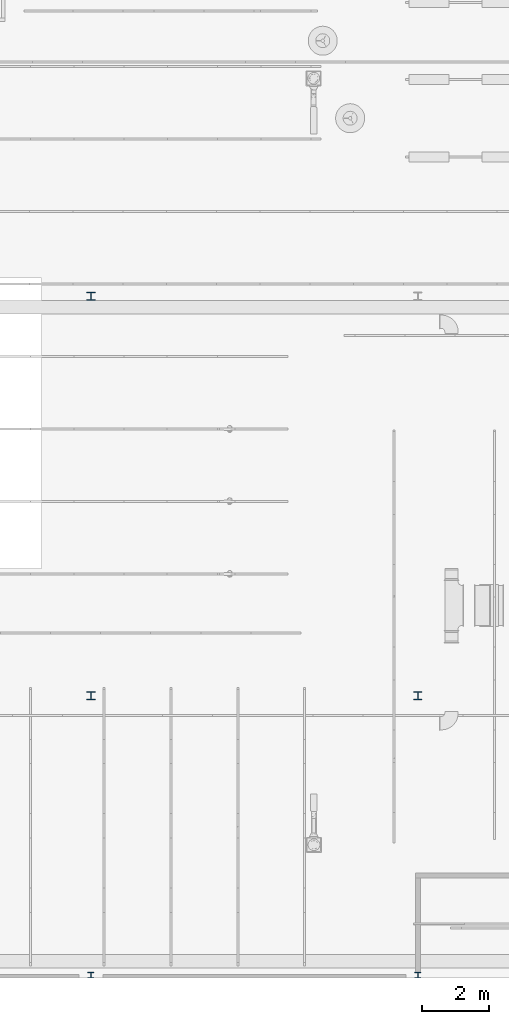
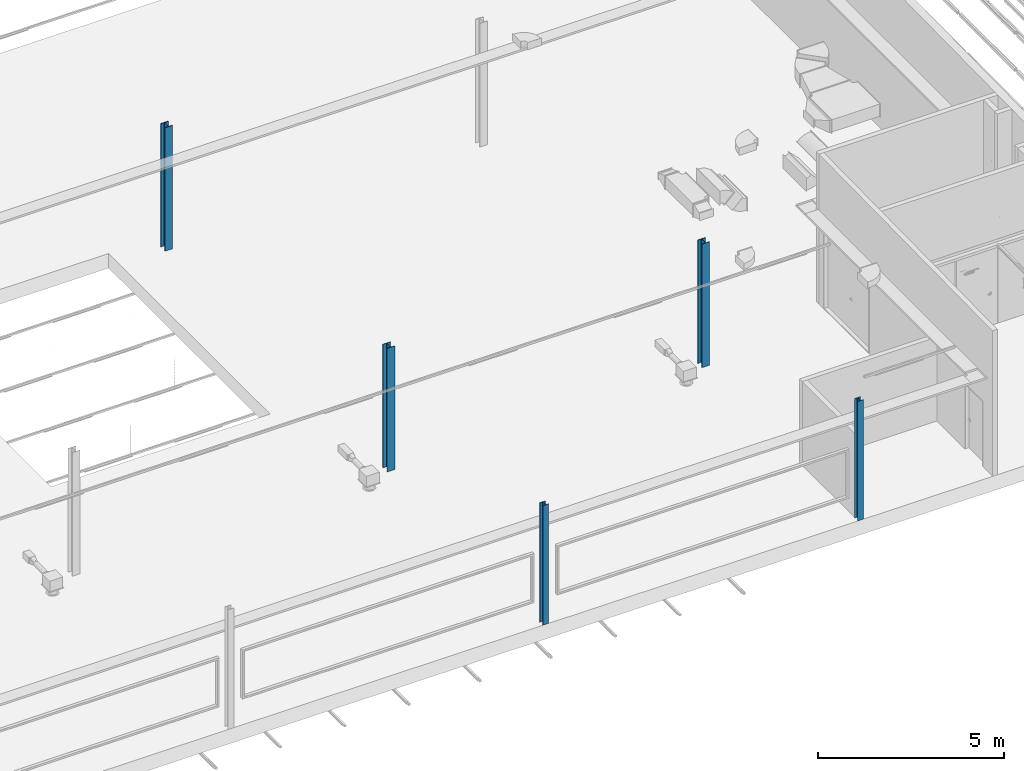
# One storey, part 4 of 290: 5 columns.
"""IFC2X3 building model written with IfcOpenShell, lengths in metres."""

import ifcopenshell
import ifcopenshell.guid

model = None  # the IFC model being written
_history = None  # IfcOwnerHistory: only IFC2X3 demands one
_inside = {}  # id of a spatial element -> (the spatial element, [elements in it])
_under = {}  # id of a project, library or spatial element -> (it, [spatial elements below it])
_declared = {}  # id of a project -> (the project, [libraries it declares])
_typed = {}  # id of a type object -> (the type object, [elements of that type])
_made_of = {}  # id of a material, layer set ... -> (it, [elements and type objects made of it])


def new_model(schema):
    """Start an empty IFC model of exactly this schema.

    Asked for "IFC4X3", IfcOpenShell would pick the latest addendum, in which some entities
    have other attributes; the version numbers below select the first issue.
    IFC2X3 requires an IfcOwnerHistory on every rooted entity: one is made here for all.
    """
    global model, _history
    if schema == "IFC4X3":
        model = ifcopenshell.file(schema_version=(4, 3, 0, 0))
    else:
        model = ifcopenshell.file(schema=schema)
    _inside.clear()
    _under.clear()
    _declared.clear()
    _typed.clear()
    _made_of.clear()
    _history = None
    if model.schema == "IFC2X3":
        org = make("IfcOrganization", Name="unknown")
        user = make(
            "IfcPersonAndOrganization",
            ThePerson=make("IfcPerson", FamilyName="unknown"),
            TheOrganization=org,
        )
        app = make(
            "IfcApplication",
            ApplicationDeveloper=org,
            Version="unknown",
            ApplicationFullName="unknown",
            ApplicationIdentifier="unknown",
        )
        _history = make(
            "IfcOwnerHistory",
            OwningUser=user,
            OwningApplication=app,
            ChangeAction="ADDED",
            CreationDate=0,
        )
    return model


def make(cls, **values):
    """One entity of the class cls with the attributes given. An attribute that is None is left unset."""
    return model.create_entity(
        cls, **{name: value for name, value in values.items() if value is not None}
    )


def entity(cls, *values):
    """Any entity or typed value of the class cls, its attributes in the order of the schema. None: left unset."""
    e = model.create_entity(cls)
    for i, value in enumerate(values):
        if value is not None:
            e[i] = value
    return e


def rooted(cls, **values):
    """An entity with a GlobalId (a new one), such as an element, a storey or a relation."""
    return make(cls, GlobalId=ifcopenshell.guid.new(), OwnerHistory=_history, **values)


def si_unit(unit_type, name, prefix=None):
    """IfcSIUnit, for example si_unit("LENGTHUNIT", "METRE", prefix="MILLI")."""
    return make("IfcSIUnit", UnitType=unit_type, Prefix=prefix, Name=name)


def converted_unit(unit_type, name, factor, base, dimensions=None, offset=None):
    """IfcConversionBasedUnit, such as the inch: factor (a typed value) times the base unit."""
    return make(
        "IfcConversionBasedUnit"
        if offset is None
        else "IfcConversionBasedUnitWithOffset",
        ConversionOffset=offset,
        Dimensions=None
        if dimensions is None
        else entity("IfcDimensionalExponents", *dimensions),
        UnitType=unit_type,
        Name=name,
        ConversionFactor=make(
            "IfcMeasureWithUnit", ValueComponent=factor, UnitComponent=base
        ),
    )


def derived_unit(unit_type, elements):
    """IfcDerivedUnit: a product of units, each with its exponent."""
    return make(
        "IfcDerivedUnit",
        Elements=[
            make("IfcDerivedUnitElement", Unit=unit, Exponent=power)
            for unit, power in elements
        ],
        UnitType=unit_type,
    )


def assignment(units):
    """IfcUnitAssignment: the units of a project."""
    return None if units is None else make("IfcUnitAssignment", Units=units)


def point(xyz):
    """IfcCartesianPoint."""
    return None if xyz is None else make("IfcCartesianPoint", Coordinates=xyz)


def direction(xyz):
    """IfcDirection."""
    return None if xyz is None else make("IfcDirection", DirectionRatios=xyz)


def frame(location, z_axis=None, x_axis=None):
    """IfcAxis2Placement3D, a coordinate frame: its origin and axes. An axis left out is left unset."""
    return make(
        "IfcAxis2Placement3D",
        Location=point(location),
        Axis=direction(z_axis),
        RefDirection=direction(x_axis),
    )


def frame_2d(location, x_axis=None):
    """IfcAxis2Placement2D, a coordinate frame in the plane: its origin and x axis."""
    return make(
        "IfcAxis2Placement2D", Location=point(location), RefDirection=direction(x_axis)
    )


def origin():
    """The frame at (0, 0, 0) with its axes left unset."""
    return frame((0.0, 0.0, 0.0))


def place(relative_to, where):
    """IfcLocalPlacement: puts the frame where relative to a parent placement (None: the world)."""
    return make(
        "IfcLocalPlacement", PlacementRelTo=relative_to, RelativePlacement=where
    )


def context(
    kind, dimensions, precision=None, world=None, true_north=None, identifier=None
):
    """IfcGeometricRepresentationContext, for example the 3D "Model" context."""
    return make(
        "IfcGeometricRepresentationContext",
        ContextIdentifier=identifier,
        ContextType=kind,
        CoordinateSpaceDimension=dimensions,
        Precision=precision,
        WorldCoordinateSystem=world,
        TrueNorth=true_north,
    )


def subcontext(parent, identifier, kind, view, scale=None):
    """IfcGeometricRepresentationSubContext, for example "Body" below "Model"."""
    return make(
        "IfcGeometricRepresentationSubContext",
        ContextIdentifier=identifier,
        ContextType=kind,
        ParentContext=parent,
        TargetScale=scale,
        TargetView=view,
    )


def project(units=None, contexts=None):
    """IfcProject with its units and contexts."""
    return rooted(
        "IfcProject",
        Name="project",
        RepresentationContexts=contexts,
        UnitsInContext=assignment(units),
    )


def spatial(cls, under=None, at=None, **own):
    """A site, building, storey or space (cls), placed at a placement, below another one or the project."""
    s = rooted(cls, ObjectPlacement=at, **own)
    if under is not None:
        _under.setdefault(under.id(), (under, []))[1].append(s)
    return s


def polyline(points):
    """IfcPolyline through the points."""
    return make("IfcPolyline", Points=[point(p) for p in points])


def circle_curve(where, radius):
    """IfcCircle in the frame where."""
    return make("IfcCircle", Position=where, Radius=radius)


def parameter(value):
    """IfcParameterValue: where a trimmed curve begins or ends, as a parameter of its basis curve."""
    return model.create_entity("IfcParameterValue", value)


def trimmed(basis, trim1, trim2, sense, master):
    """IfcTrimmedCurve: the piece of a basis curve between two trims."""
    return make(
        "IfcTrimmedCurve",
        BasisCurve=basis,
        Trim1=trim1,
        Trim2=trim2,
        SenseAgreement=sense,
        MasterRepresentation=master,
    )


def segment(curve, same_sense, transition):
    """IfcCompositeCurveSegment."""
    return make(
        "IfcCompositeCurveSegment",
        Transition=transition,
        SameSense=same_sense,
        ParentCurve=curve,
    )


def composite_curve(segments, self_intersect=None):
    """IfcCompositeCurve: segments joined end to end."""
    return make("IfcCompositeCurve", Segments=segments, SelfIntersect=self_intersect)


def profile(cls, at=None, kind="AREA", **sizes):
    """A parametric profile (cls). Its sizes go by their IFC names, for example OverallWidth=200.0."""
    return make(cls, ProfileType=kind, Position=at, **sizes)


def i_section(**sizes):
    """IfcIShapeProfileDef."""
    return profile("IfcIShapeProfileDef", **sizes)


def outline(outer, holes=None, kind="AREA"):
    """IfcArbitraryClosedProfileDef: a profile drawn as a closed curve; with holes, ...WithVoids."""
    if holes is None:
        return make("IfcArbitraryClosedProfileDef", ProfileType=kind, OuterCurve=outer)
    return make(
        "IfcArbitraryProfileDefWithVoids",
        ProfileType=kind,
        OuterCurve=outer,
        InnerCurves=holes,
    )


def extrude(swept, where, along, depth):
    """IfcExtrudedAreaSolid: the profile swept, set in the frame where, extruded along a direction by depth."""
    return make(
        "IfcExtrudedAreaSolid",
        SweptArea=swept,
        Position=where,
        ExtrudedDirection=direction(along),
        Depth=depth,
    )


def shape(context_of_items, identifier, shape_type, items):
    """IfcShapeRepresentation: the items that make up one representation, for example the "Body"."""
    return make(
        "IfcShapeRepresentation",
        ContextOfItems=context_of_items,
        RepresentationIdentifier=identifier,
        RepresentationType=shape_type,
        Items=items,
    )


def source(mapping_origin, context_of_items, identifier, shape_type, items):
    """IfcRepresentationMap: a shape defined once, which mapped items show again and again."""
    return make(
        "IfcRepresentationMap",
        MappingOrigin=mapping_origin,
        MappedRepresentation=shape(context_of_items, identifier, shape_type, items),
    )


def transform(
    local_origin,
    x_axis=None,
    y_axis=None,
    z_axis=None,
    scale=None,
    scale2=None,
    scale3=None,
    uniform=True,
):
    """IfcCartesianTransformationOperator3D, or its non-uniform kind. x_axis, y_axis, z_axis: its Axis1, 2, 3."""
    if uniform:
        return make(
            "IfcCartesianTransformationOperator3D",
            Axis1=direction(x_axis),
            Axis2=direction(y_axis),
            LocalOrigin=point(local_origin),
            Scale=scale,
            Axis3=direction(z_axis),
        )
    return make(
        "IfcCartesianTransformationOperator3DnonUniform",
        Axis1=direction(x_axis),
        Axis2=direction(y_axis),
        LocalOrigin=point(local_origin),
        Scale=scale,
        Axis3=direction(z_axis),
        Scale2=scale2,
        Scale3=scale3,
    )


def mapped(mapping_source, mapping_target):
    """IfcMappedItem: shows the shape of a source again, moved by a transform."""
    return make(
        "IfcMappedItem", MappingSource=mapping_source, MappingTarget=mapping_target
    )


def material(Name=None, Category=None):
    """IfcMaterial."""
    return make("IfcMaterial", Name=Name, Category=Category)


def made_of(thing, what):
    """Note that an element or type object is made of a material, layer set ...; save() writes the relation."""
    if what is not None:
        _made_of.setdefault(what.id(), (what, []))[1].append(thing)
    return thing


def type_object(cls, material=None, **own):
    """A type object (cls), such as IfcWallType, which elements share."""
    return made_of(rooted(cls, **own), material)


def type_shapes(of_type, sources):
    """Give a type object the sources (RepresentationMaps) that its elements show as mapped items."""
    of_type.RepresentationMaps = sources


def element(
    cls,
    number,
    at=None,
    inside=None,
    cuts=None,
    type_object=None,
    material=None,
    context=None,
    identifier="Body",
    shape_type=None,
    held_by="IfcProductDefinitionShape",
    body=None,
    shapes=None,
    **own,
):
    """One element of the class cls, such as IfcWall. Its Tag is "e" and its number.

    at: its placement. inside: the storey or other place that contains it. cuts: it is an
    opening in that element (IfcRelVoidsElement). A single representation is given by context,
    identifier, shape_type and body (its items); several are given by shapes. held_by: the class
    of the entity that holds the representations. save() writes the other relations.
    """
    e = rooted(cls, Tag="e%d" % number, ObjectPlacement=at, **own)
    if body is not None:
        shapes = [shape(context, identifier, shape_type, body)]
    if shapes is not None:
        e.Representation = make(held_by, Representations=shapes)
    if inside is not None:
        _inside.setdefault(inside.id(), (inside, []))[1].append(e)
    if cuts is not None:
        rooted(
            "IfcRelVoidsElement", RelatingBuildingElement=cuts, RelatedOpeningElement=e
        )
    if type_object is not None:
        _typed.setdefault(type_object.id(), (type_object, []))[1].append(e)
    return made_of(e, material)


def aggregate(whole, parts):
    """IfcRelAggregates: a whole, such as a stair, and the parts it consists of."""
    return rooted("IfcRelAggregates", RelatingObject=whole, RelatedObjects=parts)


def save(model, path):
    """Write the relations noted so far, then the file.

    IfcRelAggregates (storeys below a building ...), IfcRelContainedInSpatialStructure (elements
    in a storey), IfcRelDefinesByType, IfcRelAssociatesMaterial and IfcRelDeclares: one each for
    every whole, place, type object, material and project.
    """
    for whole, parts in _under.values():
        aggregate(whole, parts)
    for where, things in _inside.values():
        rooted(
            "IfcRelContainedInSpatialStructure",
            RelatedElements=things,
            RelatingStructure=where,
        )
    for kind, things in _typed.values():
        rooted("IfcRelDefinesByType", RelatedObjects=things, RelatingType=kind)
    for what, things in _made_of.values():
        rooted("IfcRelAssociatesMaterial", RelatedObjects=things, RelatingMaterial=what)
    for by, libraries in _declared.values():
        rooted("IfcRelDeclares", RelatingContext=by, RelatedDefinitions=libraries)
    model.write(path)


model = new_model("IFC2X3")

# Units and contexts
model_context = context("Model", 3, precision=1e-05, world=origin(), true_north=direction((6.12303176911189e-17, 1.0)))
body_context = subcontext(model_context, "Body", "Model", "MODEL_VIEW")
ifc_project = project(units=[si_unit("LENGTHUNIT", "METRE"), si_unit("AREAUNIT", "SQUARE_METRE"), si_unit("VOLUMEUNIT", "CUBIC_METRE"), converted_unit("PLANEANGLEUNIT", "DEGREE", entity("IfcRatioMeasure", 0.0174532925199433), si_unit("PLANEANGLEUNIT", "RADIAN"), dimensions=[0, 0, 0, 0, 0, 0, 0]), si_unit("MASSUNIT", "GRAM", prefix="KILO"), derived_unit("MASSDENSITYUNIT", [(si_unit("MASSUNIT", "GRAM", prefix="KILO"), 1), (si_unit("LENGTHUNIT", "METRE"), -3)]), derived_unit("MOMENTOFINERTIAUNIT", [(si_unit("LENGTHUNIT", "METRE"), 4)]), si_unit("TIMEUNIT", "SECOND"), si_unit("FREQUENCYUNIT", "HERTZ"), si_unit("THERMODYNAMICTEMPERATUREUNIT", "DEGREE_CELSIUS"), derived_unit("THERMALTRANSMITTANCEUNIT", [(si_unit("MASSUNIT", "GRAM", prefix="KILO"), 1), (si_unit("THERMODYNAMICTEMPERATUREUNIT", "KELVIN"), -1), (si_unit("TIMEUNIT", "SECOND"), -3)]), derived_unit("VOLUMETRICFLOWRATEUNIT", [(si_unit("LENGTHUNIT", "METRE"), 3), (si_unit("TIMEUNIT", "SECOND"), -1)]), si_unit("ELECTRICCURRENTUNIT", "AMPERE"), si_unit("ELECTRICVOLTAGEUNIT", "VOLT"), si_unit("POWERUNIT", "WATT"), si_unit("FORCEUNIT", "NEWTON", prefix="KILO"), si_unit("ILLUMINANCEUNIT", "LUX"), si_unit("LUMINOUSFLUXUNIT", "LUMEN"), si_unit("LUMINOUSINTENSITYUNIT", "CANDELA"), derived_unit("USERDEFINED", [(si_unit("MASSUNIT", "GRAM", prefix="KILO"), -1), (si_unit("LENGTHUNIT", "METRE"), -2), (si_unit("TIMEUNIT", "SECOND"), 3), (si_unit("LUMINOUSFLUXUNIT", "LUMEN"), 1)]), derived_unit("LINEARVELOCITYUNIT", [(si_unit("LENGTHUNIT", "METRE"), 1), (si_unit("TIMEUNIT", "SECOND"), -1)]), si_unit("PRESSUREUNIT", "PASCAL"), derived_unit("USERDEFINED", [(si_unit("LENGTHUNIT", "METRE"), -2), (si_unit("MASSUNIT", "GRAM", prefix="KILO"), 1), (si_unit("TIMEUNIT", "SECOND"), -2)]), derived_unit("LINEARFORCEUNIT", [(si_unit("MASSUNIT", "GRAM", prefix="KILO"), 1), (si_unit("LENGTHUNIT", "METRE"), 1), (si_unit("TIMEUNIT", "SECOND"), -2), (si_unit("LENGTHUNIT", "METRE"), -1)]), derived_unit("PLANARFORCEUNIT", [(si_unit("MASSUNIT", "GRAM", prefix="KILO"), 1), (si_unit("LENGTHUNIT", "METRE"), 1), (si_unit("TIMEUNIT", "SECOND"), -2), (si_unit("LENGTHUNIT", "METRE"), -2)])], contexts=[model_context])

# Site, building, storey
site_placement = place(None, origin())
site = spatial("IfcSite", under=ifc_project, at=site_placement, Name="Default", CompositionType="ELEMENT")
building_placement = place(site_placement, origin())
building = spatial("IfcBuilding", under=site, at=building_placement, CompositionType="ELEMENT")
storey_placement = place(building_placement, frame((0.0, 0.0, 4.0)))
storey = spatial("IfcBuildingStorey", under=building, at=storey_placement, Name="01_OG", CompositionType="ELEMENT", Elevation=4.0)

# Columns
ifc_material = material(Name="Metall - Baustahl S235")
column_type_1 = type_object("IfcColumnType", Name="HEB Stütze:HEB 240", PredefinedType="COLUMN", material=ifc_material)
shared_shape_1 = source(origin(), body_context, "Body", "SweptSolid", [
    extrude(outline(composite_curve([segment(polyline([(0.103000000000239, -0.119999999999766), (0.120000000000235, -0.11999999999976)]), True, "CONTINUOUS"), segment(polyline([(0.120000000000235, -0.119999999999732), (0.119999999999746, 0.120000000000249)]), True, "CONTINUOUS"), segment(polyline([(0.119999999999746, 0.120000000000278), (0.10299999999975, 0.120000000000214)]), True, "CONTINUOUS"), segment(polyline([(0.10299999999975, 0.120000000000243), (0.10299999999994, 0.0268000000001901)]), True, "CONTINUOUS"), segment(trimmed(circle_curve(frame_2d((0.0811999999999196, 0.0268000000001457), x_axis=(1.0, 0.0)), 0.0218000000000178), [parameter(270.000000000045)], [parameter(0.0)], True, "PARAMETER"), False, "CONTINUOUS"), segment(polyline([(0.0811999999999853, 0.00500000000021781), (-0.0812000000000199, 0.00499999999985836)]), True, "CONTINUOUS"), segment(trimmed(circle_curve(frame_2d((-0.081200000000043, 0.0267999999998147), x_axis=(0.0, -1.0)), 0.0218000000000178), [parameter(270.000000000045)], [parameter(0.0)], True, "PARAMETER"), False, "CONTINUOUS"), segment(polyline([(-0.103000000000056, 0.0267999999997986), (-0.103000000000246, 0.119999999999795)]), True, "CONTINUOUS"), segment(polyline([(-0.103000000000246, 0.119999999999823), (-0.120000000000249, 0.11999999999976)]), True, "CONTINUOUS"), segment(polyline([(-0.120000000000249, 0.119999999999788), (-0.11999999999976, -0.120000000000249)]), True, "CONTINUOUS"), segment(polyline([(-0.11999999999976, -0.120000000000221), (-0.102999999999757, -0.120000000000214)]), True, "CONTINUOUS"), segment(polyline([(-0.102999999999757, -0.120000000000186), (-0.102999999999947, -0.0268000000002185)]), True, "CONTINUOUS"), segment(trimmed(circle_curve(frame_2d((-0.0811999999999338, -0.0268000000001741), x_axis=(-1.0, 0.0)), 0.0218000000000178), [parameter(270.000000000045)], [parameter(0.0)], True, "PARAMETER"), False, "CONTINUOUS"), segment(polyline([(-0.0811999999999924, -0.00500000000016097), (0.0812000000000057, -0.00499999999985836)]), True, "CONTINUOUS"), segment(trimmed(circle_curve(frame_2d((0.0812000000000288, -0.0267999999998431), x_axis=(0.0, 1.0)), 0.0218000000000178), [parameter(270.000000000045)], [parameter(0.0)], True, "PARAMETER"), False, "CONTINUOUS"), segment(polyline([(0.103000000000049, -0.0267999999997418), (0.103000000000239, -0.119999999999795)]), True, "CONTINUOUS")], self_intersect=False)), frame((-227.360111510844, 35.408088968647, 4.48), z_axis=(0.0, 0.0, 1.0), x_axis=(0.0, -1.0, 0.0)), (0.0, 0.0, 1.0), 4.057),
])
type_shapes(column_type_1, [shared_shape_1])
column_1_placement = place(storey_placement, frame((0.0, 0.0, -4.0)))
element("IfcColumn", 1, at=column_1_placement, inside=storey, type_object=column_type_1, material=ifc_material, Name="HEB Stütze:HEB 240", ObjectType="HEB Stütze:HEB 240", context=body_context, shape_type="MappedRepresentation", body=[
    mapped(shared_shape_1, transform((0.0, 0.0, 0.0), scale=1.0)),
])
column_type_2 = type_object("IfcColumnType", Name="HEB Stütze:HEB 240", PredefinedType="COLUMN", material=ifc_material)
shared_shape_2 = source(origin(), body_context, "Body", "SweptSolid", [
    extrude(outline(composite_curve([segment(polyline([(0.103000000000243, -0.119999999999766), (0.120000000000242, -0.119999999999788)]), True, "CONTINUOUS"), segment(polyline([(0.120000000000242, -0.119999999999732), (0.119999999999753, 0.120000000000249)]), True, "CONTINUOUS"), segment(polyline([(0.119999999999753, 0.120000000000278), (0.102999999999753, 0.120000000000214)]), True, "CONTINUOUS"), segment(polyline([(0.102999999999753, 0.120000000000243), (0.102999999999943, 0.0268000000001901)]), True, "CONTINUOUS"), segment(trimmed(circle_curve(frame_2d((0.0811999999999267, 0.0268000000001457), x_axis=(1.0, 0.0)), 0.0218000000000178), [parameter(270.000000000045)], [parameter(0.0)], True, "PARAMETER"), False, "CONTINUOUS"), segment(polyline([(0.0811999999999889, 0.00500000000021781), (-0.0812000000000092, 0.00499999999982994)]), True, "CONTINUOUS"), segment(trimmed(circle_curve(frame_2d((-0.0812000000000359, 0.0267999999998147), x_axis=(0.0, -1.0)), 0.0218000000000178), [parameter(270.000000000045)], [parameter(0.0)], True, "PARAMETER"), False, "CONTINUOUS"), segment(polyline([(-0.103000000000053, 0.0267999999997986), (-0.103000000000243, 0.119999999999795)]), True, "CONTINUOUS"), segment(polyline([(-0.103000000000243, 0.119999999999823), (-0.120000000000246, 0.11999999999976)]), True, "CONTINUOUS"), segment(polyline([(-0.120000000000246, 0.119999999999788), (-0.119999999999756, -0.120000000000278)]), True, "CONTINUOUS"), segment(polyline([(-0.119999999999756, -0.120000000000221), (-0.102999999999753, -0.120000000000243)]), True, "CONTINUOUS"), segment(polyline([(-0.102999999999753, -0.120000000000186), (-0.102999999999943, -0.0268000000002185)]), True, "CONTINUOUS"), segment(trimmed(circle_curve(frame_2d((-0.0811999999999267, -0.0268000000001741), x_axis=(-1.0, 0.0)), 0.0218000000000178), [parameter(270.000000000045)], [parameter(0.0)], True, "PARAMETER"), False, "CONTINUOUS"), segment(polyline([(-0.0811999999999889, -0.00500000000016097), (0.0812000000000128, -0.00499999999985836)]), True, "CONTINUOUS"), segment(trimmed(circle_curve(frame_2d((0.0812000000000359, -0.0267999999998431), x_axis=(0.0, 1.0)), 0.0218000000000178), [parameter(270.000000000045)], [parameter(0.0)], True, "PARAMETER"), False, "CONTINUOUS"), segment(polyline([(0.103000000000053, -0.0267999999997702), (0.103000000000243, -0.119999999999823)]), True, "CONTINUOUS")], self_intersect=False)), frame((-227.360111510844, 23.4480889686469, 4.48), z_axis=(0.0, 0.0, 1.0), x_axis=(0.0, -1.0, 0.0)), (0.0, 0.0, 1.0), 4.057),
])
type_shapes(column_type_2, [shared_shape_2])
column_2_placement = place(storey_placement, frame((0.0, 0.0, -4.0)))
element("IfcColumn", 2, at=column_2_placement, inside=storey, type_object=column_type_2, material=ifc_material, Name="HEB Stütze:HEB 240", ObjectType="HEB Stütze:HEB 240", context=body_context, shape_type="MappedRepresentation", body=[
    mapped(shared_shape_2, transform((0.0, 0.0, 0.0), scale=1.0)),
])
column_type_3 = type_object("IfcColumnType", Name="HEB Stütze:HEB 240", PredefinedType="COLUMN", material=ifc_material)
shared_shape_3 = source(origin(), body_context, "Body", "SweptSolid", [
    extrude(outline(composite_curve([segment(polyline([(0.103000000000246, -0.119999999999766), (0.120000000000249, -0.11999999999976)]), True, "CONTINUOUS"), segment(polyline([(0.120000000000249, -0.119999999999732), (0.11999999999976, 0.120000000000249)]), True, "CONTINUOUS"), segment(polyline([(0.11999999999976, 0.120000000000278), (0.102999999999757, 0.120000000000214)]), True, "CONTINUOUS"), segment(polyline([(0.102999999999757, 0.120000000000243), (0.102999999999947, 0.0268000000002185)]), True, "CONTINUOUS"), segment(trimmed(circle_curve(frame_2d((0.0811999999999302, 0.0268000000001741), x_axis=(1.0, 0.0)), 0.0218000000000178), [parameter(270.000000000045)], [parameter(0.0)], True, "PARAMETER"), False, "CONTINUOUS"), segment(polyline([(0.0811999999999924, 0.00500000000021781), (-0.0812000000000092, 0.00499999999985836)]), True, "CONTINUOUS"), segment(trimmed(circle_curve(frame_2d((-0.0812000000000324, 0.0267999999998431), x_axis=(0.0, -1.0)), 0.0218000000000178), [parameter(270.000000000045)], [parameter(0.0)], True, "PARAMETER"), False, "CONTINUOUS"), segment(polyline([(-0.103000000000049, 0.0267999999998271), (-0.103000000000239, 0.119999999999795)]), True, "CONTINUOUS"), segment(polyline([(-0.103000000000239, 0.119999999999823), (-0.120000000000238, 0.11999999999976)]), True, "CONTINUOUS"), segment(polyline([(-0.120000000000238, 0.119999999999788), (-0.119999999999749, -0.120000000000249)]), True, "CONTINUOUS"), segment(polyline([(-0.119999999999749, -0.120000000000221), (-0.10299999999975, -0.120000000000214)]), True, "CONTINUOUS"), segment(polyline([(-0.10299999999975, -0.120000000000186), (-0.10299999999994, -0.0268000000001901)]), True, "CONTINUOUS"), segment(trimmed(circle_curve(frame_2d((-0.0811999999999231, -0.0268000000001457), x_axis=(-1.0, 0.0)), 0.0218000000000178), [parameter(270.000000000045)], [parameter(0.0)], True, "PARAMETER"), False, "CONTINUOUS"), segment(polyline([(-0.0811999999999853, -0.00500000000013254), (0.0812000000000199, -0.00499999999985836)]), True, "CONTINUOUS"), segment(trimmed(circle_curve(frame_2d((0.0812000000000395, -0.0267999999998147), x_axis=(0.0, 1.0)), 0.0218000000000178), [parameter(270.000000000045)], [parameter(0.0)], True, "PARAMETER"), False, "CONTINUOUS"), segment(polyline([(0.103000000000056, -0.0267999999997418), (0.103000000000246, -0.119999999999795)]), True, "CONTINUOUS")], self_intersect=False)), frame((-217.572611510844, 23.4480889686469, 4.48), z_axis=(0.0, 0.0, 1.0), x_axis=(0.0, -1.0, 0.0)), (0.0, 0.0, 1.0), 4.057),
])
type_shapes(column_type_3, [shared_shape_3])
column_3_placement = place(storey_placement, frame((0.0, 0.0, -4.0)))
element("IfcColumn", 3, at=column_3_placement, inside=storey, type_object=column_type_3, material=ifc_material, Name="HEB Stütze:HEB 240", ObjectType="HEB Stütze:HEB 240", context=body_context, shape_type="MappedRepresentation", body=[
    mapped(shared_shape_3, transform((0.0, 0.0, 0.0), scale=1.0)),
])
column_type_4 = type_object("IfcColumnType", Name="HEA Stütze:HEA 180", PredefinedType="COLUMN", material=ifc_material)
shared_shape_4 = source(origin(), body_context, "Body", "SweptSolid", [
    extrude(i_section(OverallWidth=0.18, OverallDepth=0.171, WebThickness=0.00599999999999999, FlangeThickness=0.0095, FilletRadius=0.0149999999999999, at=frame_2d((0.0, 0.0), x_axis=(0.0, 1.0))), frame((0.0, 0.0, 4.48), z_axis=(0.0, 0.0, 1.0), x_axis=(0.0, -1.0, 0.0)), (0.0, 0.0, 1.0), 3.93),
])
type_shapes(column_type_4, [shared_shape_4])
for number, where in (
    (4, (-227.360111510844, 15.0835889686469, -4.0)),
    (5, (-217.572611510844, 15.0835889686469, -4.0)),
):
    element("IfcColumn", number, at=place(storey_placement, frame(where)), inside=storey, type_object=column_type_4, material=ifc_material, Name="HEA Stütze:HEA 180", ObjectType="HEA Stütze:HEA 180", context=body_context, shape_type="MappedRepresentation", body=[
        mapped(shared_shape_4, transform((0.0, 0.0, 0.0), scale=1.0)),
    ])

save(model, "model.ifc")
